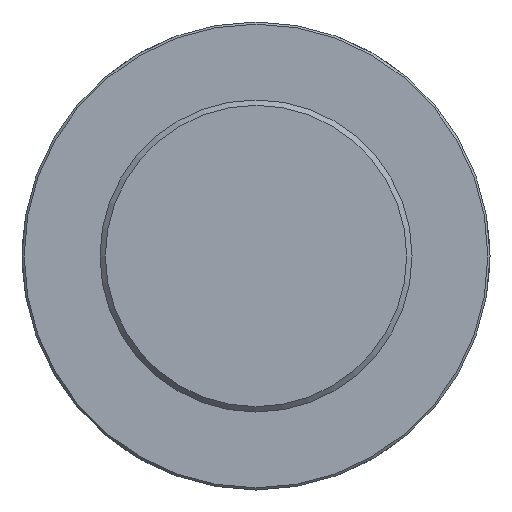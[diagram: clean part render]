
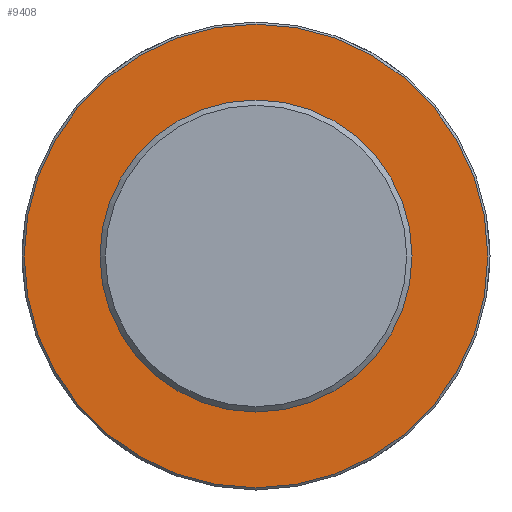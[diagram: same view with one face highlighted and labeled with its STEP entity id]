
A CAD part, front view. The second image highlights one B-rep face of the part: STEP entity #9408.
In plain terms, the highlighted planar face has unit normal (0, -1, 0) as drawn and (0, 1, 0) by its records, which use the part's own axes.
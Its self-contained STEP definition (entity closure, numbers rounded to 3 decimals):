
#73=CIRCLE('',#9789,215.5);
#424=PLANE('',#9792);
#927=FACE_OUTER_BOUND('',#1507,.T.);
#1507=EDGE_LOOP('',(#8656));
#4621=VERTEX_POINT('',#16940);
#5970=EDGE_CURVE('',#4621,#4621,#73,.T.);
#8656=ORIENTED_EDGE('',*,*,#5970,.F.);
#9408=ADVANCED_FACE('',(#927),#424,.T.);
#9789=AXIS2_PLACEMENT_3D('',#16941,#11288,#11289);
#9792=AXIS2_PLACEMENT_3D('',#17179,#11294,#11295);
#11288=DIRECTION('center_axis',(0.,-1.,0.));
#11289=DIRECTION('ref_axis',(1.,0.,0.));
#11294=DIRECTION('center_axis',(0.,1.,0.));
#11295=DIRECTION('ref_axis',(0.,0.,1.));
#16940=CARTESIAN_POINT('',(-215.5,200.,0.));
#16941=CARTESIAN_POINT('Origin',(0.,200.,0.));
#17179=CARTESIAN_POINT('Origin',(0.,200.,0.));
